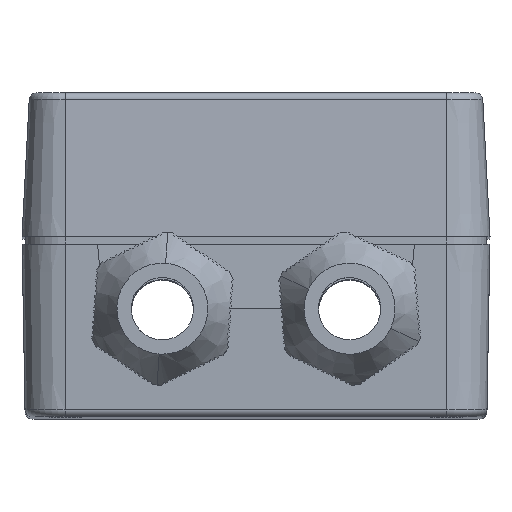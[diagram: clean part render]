
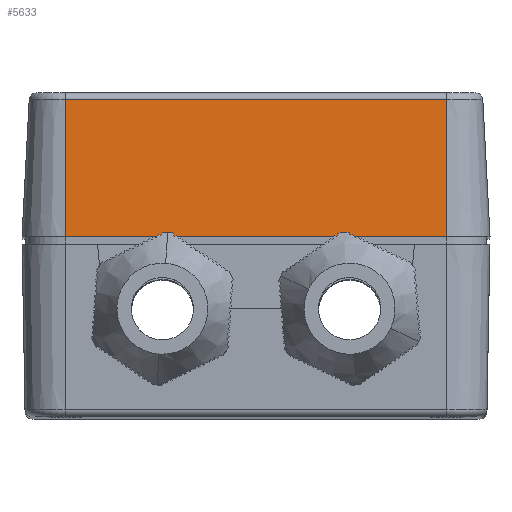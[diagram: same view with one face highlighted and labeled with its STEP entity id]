
A CAD part, top view. The second image highlights one B-rep face of the part: STEP entity #5633.
In plain terms, the highlighted planar face has unit normal (0, 0.052, 0.999) as drawn and (0.999, 0.052, 0) by its records, which use the part's own axes.
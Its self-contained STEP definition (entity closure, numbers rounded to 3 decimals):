
#1525 = EDGE_CURVE ( 'NONE', #2479, #53210, #8420, .T. ) ;
#2479 = VERTEX_POINT ( 'NONE', #53197 ) ;
#3219 = LINE ( 'NONE', #15123, #48423 ) ;
#4108 = PLANE ( 'NONE',  #52575 ) ;
#4479 = DIRECTION ( 'NONE',  ( 0., 0., -1. ) ) ;
#5633 = ADVANCED_FACE ( 'NONE', ( #25635 ), #4108, .T. ) ;
#8420 = LINE ( 'NONE', #9610, #49410 ) ;
#9010 = DIRECTION ( 'NONE',  ( 0.999, 0.052, 0. ) ) ;
#9610 = CARTESIAN_POINT ( 'NONE',  ( 90., 0., 26.5 ) ) ;
#11565 = EDGE_CURVE ( 'NONE', #25505, #2479, #61285, .T. ) ;
#15123 = CARTESIAN_POINT ( 'NONE',  ( 90., 0., -26.5 ) ) ;
#15234 = EDGE_LOOP ( 'NONE', ( #36768, #16795, #38971, #68782 ) ) ;
#16404 = DIRECTION ( 'NONE',  ( 0., 0., 1. ) ) ;
#16795 = ORIENTED_EDGE ( 'NONE', *, *, #52198, .T. ) ;
#25505 = VERTEX_POINT ( 'NONE', #40733 ) ;
#25635 = FACE_OUTER_BOUND ( 'NONE', #15234, .T. ) ;
#27635 = CARTESIAN_POINT ( 'NONE',  ( 89.002, 19.052, 26.5 ) ) ;
#28708 = VECTOR ( 'NONE', #16404, 1000. ) ;
#36768 = ORIENTED_EDGE ( 'NONE', *, *, #58313, .F. ) ;
#36832 = VERTEX_POINT ( 'NONE', #53718 ) ;
#38971 = ORIENTED_EDGE ( 'NONE', *, *, #11565, .T. ) ;
#40733 = CARTESIAN_POINT ( 'NONE',  ( 89.002, 19.052, 26.5 ) ) ;
#41517 = CARTESIAN_POINT ( 'NONE',  ( 90., 0., 26.5 ) ) ;
#41788 = DIRECTION ( 'NONE',  ( 0.052, -0.999, 0. ) ) ;
#43356 = CARTESIAN_POINT ( 'NONE',  ( 90., 0., -26.5 ) ) ;
#46433 = DIRECTION ( 'NONE',  ( -0.052, 0.999, 0. ) ) ;
#48423 = VECTOR ( 'NONE', #41788, 1000. ) ;
#49410 = VECTOR ( 'NONE', #4479, 1000. ) ;
#52096 = VECTOR ( 'NONE', #60699, 1000. ) ;
#52198 = EDGE_CURVE ( 'NONE', #36832, #25505, #67103, .T. ) ;
#52575 = AXIS2_PLACEMENT_3D ( 'NONE', #41517, #9010, #46433 ) ;
#53197 = CARTESIAN_POINT ( 'NONE',  ( 90., 0., 26.5 ) ) ;
#53210 = VERTEX_POINT ( 'NONE', #43356 ) ;
#53718 = CARTESIAN_POINT ( 'NONE',  ( 89.002, 19.052, -26.5 ) ) ;
#58313 = EDGE_CURVE ( 'NONE', #36832, #53210, #3219, .T. ) ;
#60699 = DIRECTION ( 'NONE',  ( 0.052, -0.999, 0. ) ) ;
#61285 = LINE ( 'NONE', #66053, #52096 ) ;
#66053 = CARTESIAN_POINT ( 'NONE',  ( 90., 0., 26.5 ) ) ;
#67103 = LINE ( 'NONE', #27635, #28708 ) ;
#68782 = ORIENTED_EDGE ( 'NONE', *, *, #1525, .T. ) ;
